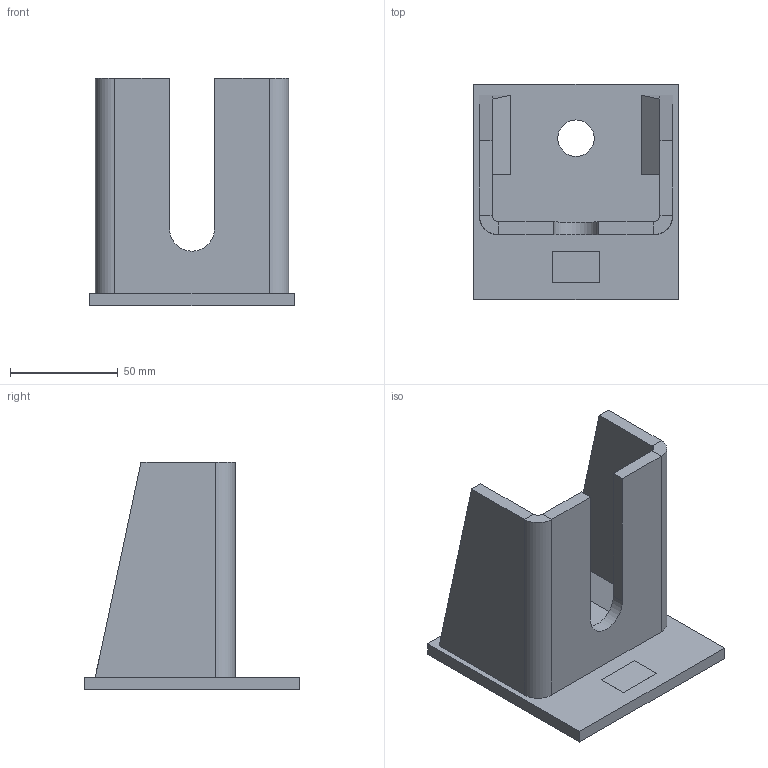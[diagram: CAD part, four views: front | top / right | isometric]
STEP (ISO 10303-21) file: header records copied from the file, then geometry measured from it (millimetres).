
FILE_DESCRIPTION(/* description */ ('Einfachkonsole Nr.3'),/* implementation_level */ '2;1');
FILE_NAME(/* name */ 'Q:\sge-ma\Produktmanagement-STB\STB\Workspace\stp\010335330.stp',/* time_stamp */ '2015-07-09T13:24:17+02:00',/* author */ ('avschreier'),/* organization */ (''),/* preprocessor_version */ 'ST-DEVELOPER v15.6',/* originating_system */ 'Autodesk Inventor 2015',/* authorisation */ '');
FILE_SCHEMA (('CONFIG_CONTROL_DESIGN'));
Length unit declared in the file: millimetre
Products named in the file (4): 010335330_Schweißnähte; 337000236; 337000237; 010335330
Bounding box: 95 x 100 x 106 mm (x, y, z)
Volume: 157337.2 mm3; surface area: 60798 mm2
Topology: 4 solids, 4 shells, 48 faces, 101 edges, 62 vertices
Faces by surface type: plane 42, cylinder 6
Full cylindrical faces by diameter (mm): 17 x1
Entity records: 1350 total; most frequent: DIRECTION 222, CARTESIAN_POINT 217, ORIENTED_EDGE 200, EDGE_CURVE 100, LINE 88, VECTOR 88, AXIS2_PLACEMENT_3D 67, VERTEX_POINT 62
